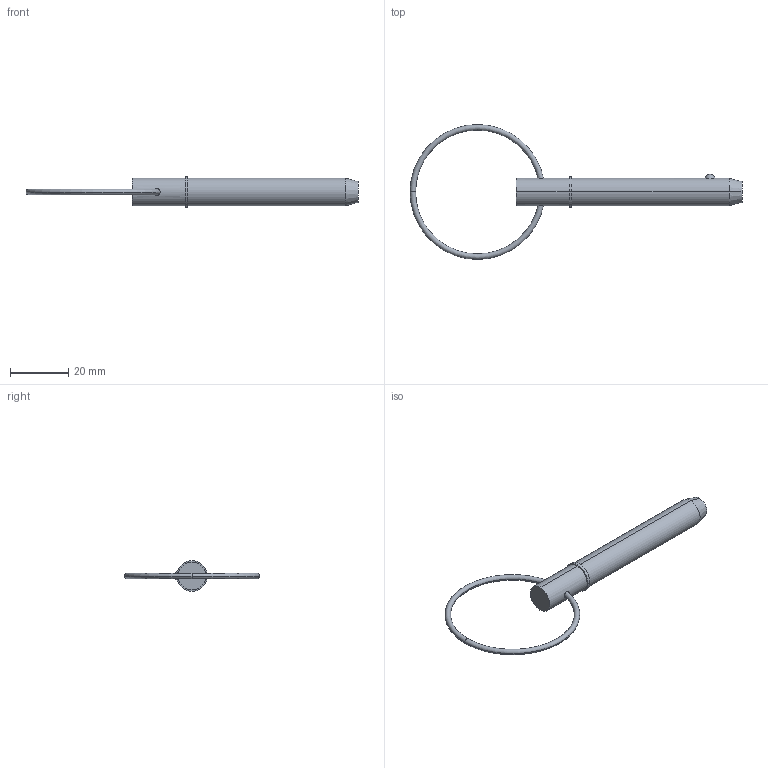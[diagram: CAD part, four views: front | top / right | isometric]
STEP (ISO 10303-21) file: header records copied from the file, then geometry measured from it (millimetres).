
FILE_DESCRIPTION (( 'STEP AP203' ), '1' );
FILE_NAME ('33016.W3718.step', '2024-11-07T11:05:14', ( '' ), ( '' ), 'SwSTEP 2.0', 'SolidWorks 2019', '' );
FILE_SCHEMA (( 'CONFIG_CONTROL_DESIGN' ));
Length unit declared in the file: millimetre
Products named in the file (3): Part1_33016.W3718; 33016.W3718; Part2_33016.W3718
Assembly tree (2 placements, depth 2):
  33016.W3718
    Part1_33016.W3718
    Part2_33016.W3718
Bounding box: 114.05 x 46.36 x 10.48 mm (x, y, z)
Volume: 5831.3 mm3; surface area: 3355.4 mm2
Topology: 2 solids, 2 shells, 22 faces, 43 edges, 26 vertices
Faces by surface type: torus 8, cylinder 6, plane 4, sphere 2, cone 2
Entity records: 1003 total; most frequent: CARTESIAN_POINT 226, DIRECTION 120, ORIENTED_EDGE 86, AXIS2_PLACEMENT_3D 56, EDGE_CURVE 43, CIRCLE 29, EDGE_LOOP 27, VERTEX_POINT 26
